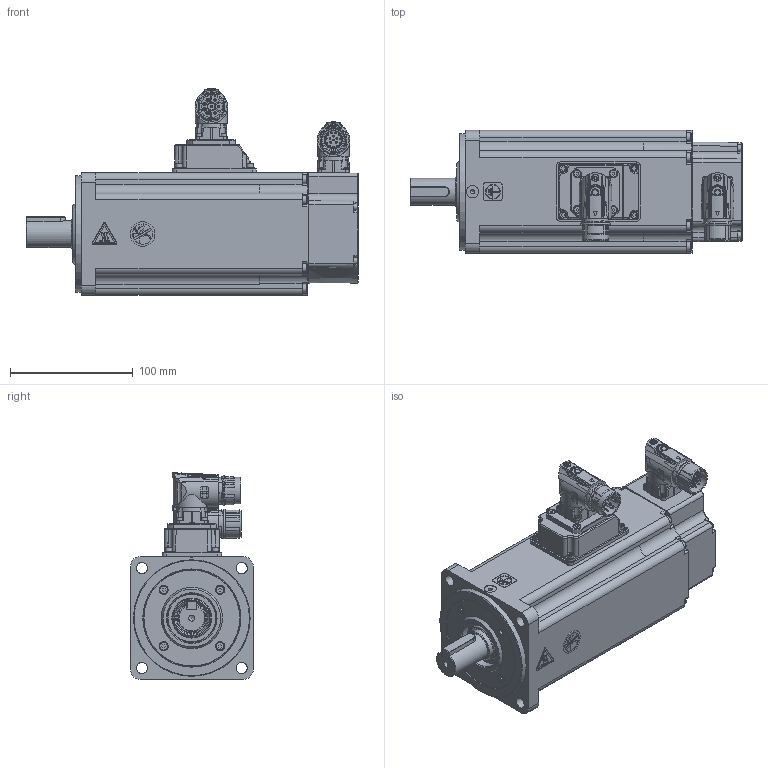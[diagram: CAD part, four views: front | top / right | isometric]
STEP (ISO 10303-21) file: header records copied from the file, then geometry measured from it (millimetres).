
FILE_DESCRIPTION( ( 'Unknown' ), '1' );
FILE_NAME( 'U:/05_Progetto TCE/010-TCE motor drawings/TCE100/vuoti/TCE100 4B XX 3 A2 1 C2.stp', 'Unknown', ( 'Unknown' ), ( 'Unknown' ), 'PSStep 17.0.49', 'Unknown', ' ' );
FILE_SCHEMA( ( 'AUTOMOTIVE_DESIGN { 1 0 10303 214 1 1 1 1 }' ) );
Length unit declared in the file: millimetre
Products named in the file (15): 005911000430
Bounding box: 270.5 x 100.3 x 168.5 mm (x, y, z)
Volume: 842777.1 mm3; surface area: 295241.3 mm2
Topology: 15 solids, 88 shells, 3000 faces, 7495 edges, 4831 vertices
Faces by surface type: plane 1473, cylinder 731, cone 291, bspline 194, torus 162, sphere 111, extrusion 38
Full cylindrical faces by diameter (mm): 0.5 x1, 1 x21, 1.2 x17, 1.4 x4, 1.7 x2, 2 x4, 2.013 x4, 2.2 x2, 2.459 x24, 2.5 x8, 2.6 x4, 2.8 x4, 3 x29, 3.2 x1, 3.242 x33, 3.5 x8, 4 x21, 4.4 x4, 4.5 x14, 4.7 x4, 4.917 x1, 5.5 x11, 5.8 x1, 5.9 x2, 6.8 x1, 7 x16, 7.5 x4, 8 x7, 10 x1, 11 x1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
Entity records: 119117 total; most frequent: CARTESIAN_POINT 30548, DIRECTION 13438, ORIENTED_EDGE 12976, EDGE_CURVE 6488, AXIS2_PLACEMENT_3D 5038, VERTEX_POINT 4579, EDGE_LOOP 3950, FACE_OUTER_BOUND 3439
